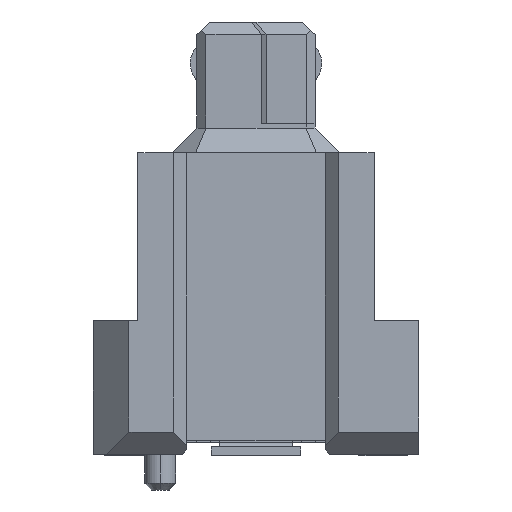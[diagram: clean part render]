
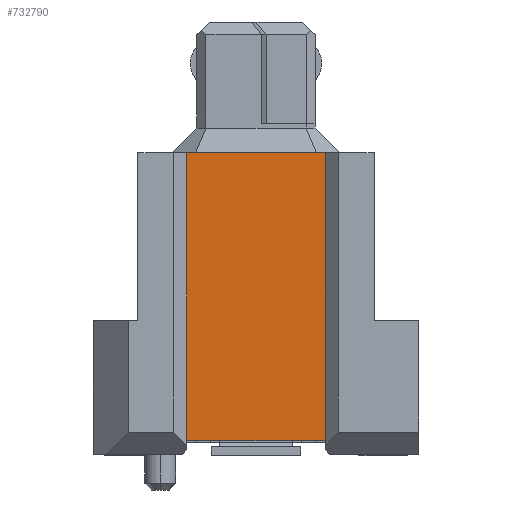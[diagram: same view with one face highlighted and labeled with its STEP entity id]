
A CAD part, left-side view. The second image highlights one B-rep face of the part: STEP entity #732790.
In plain terms, the highlighted planar face has unit normal (-1, 0, 0).
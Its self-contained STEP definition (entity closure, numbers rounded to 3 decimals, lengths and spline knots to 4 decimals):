
#50180=CARTESIAN_POINT('',(-0.0318,-5.0602,1.1));
#50190=VERTEX_POINT('',#50180);
#50220=CARTESIAN_POINT('',(-0.0318,-5.0602,0.));
#50230=DIRECTION('',(0.,0.,-1.));
#50240=VECTOR('',#50230,1.);
#50250=LINE('',#50220,#50240);
#50260=CARTESIAN_POINT('',(-0.0318,-5.0602,4.2));
#50270=VERTEX_POINT('',#50260);
#50280=EDGE_CURVE('',#50270,#50190,#50250,.T.);
#120120=CARTESIAN_POINT('',(-0.0318,1.4098,4.2));
#120130=VERTEX_POINT('',#120120);
#120160=CARTESIAN_POINT('',(-0.0318,1.4098,0.));
#120170=DIRECTION('',(0.,0.,1.));
#120180=VECTOR('',#120170,1.);
#120190=LINE('',#120160,#120180);
#120200=CARTESIAN_POINT('',(-0.0318,1.4098,1.1));
#120210=VERTEX_POINT('',#120200);
#120220=EDGE_CURVE('',#120210,#120130,#120190,.T.);
#731790=CARTESIAN_POINT('',(-0.0318,0.,4.2));
#731800=DIRECTION('',(0.,-1.,0.));
#731810=VECTOR('',#731800,1.);
#731820=LINE('',#731790,#731810);
#731830=EDGE_CURVE('',#120130,#50270,#731820,.T.);
#732630=CARTESIAN_POINT('',(-0.0318,-5.3602,5.3));
#732640=DIRECTION('',(-1.,0.,0.));
#732650=DIRECTION('',(0.,1.,0.));
#732660=AXIS2_PLACEMENT_3D('',#732630,#732640,#732650);
#732670=PLANE('',#732660);
#732680=CARTESIAN_POINT('',(-0.0318,0.,1.1));
#732690=DIRECTION('',(0.,-1.,0.));
#732700=VECTOR('',#732690,1.);
#732710=LINE('',#732680,#732700);
#732720=EDGE_CURVE('',#120210,#50190,#732710,.T.);
#732730=ORIENTED_EDGE('',*,*,#732720,.T.);
#732740=ORIENTED_EDGE('',*,*,#120220,.F.);
#732750=ORIENTED_EDGE('',*,*,#731830,.F.);
#732760=ORIENTED_EDGE('',*,*,#50280,.F.);
#732770=EDGE_LOOP('',(#732760,#732750,#732740,#732730));
#732780=FACE_OUTER_BOUND('',#732770,.T.);
#732790=ADVANCED_FACE('',(#732780),#732670,.T.);
